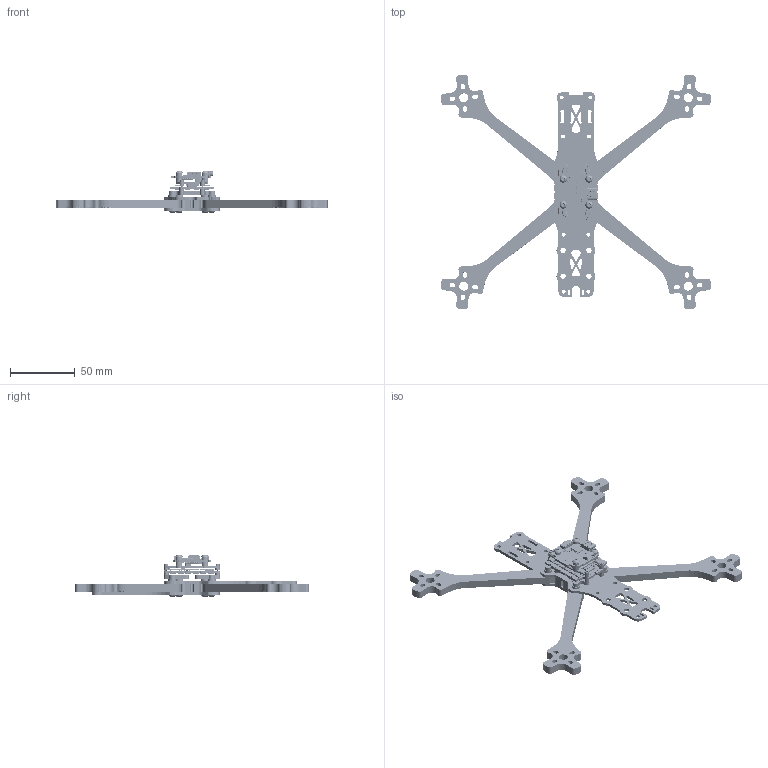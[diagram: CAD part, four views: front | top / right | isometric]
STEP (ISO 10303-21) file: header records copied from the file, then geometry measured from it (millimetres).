
FILE_DESCRIPTION (( 'STEP AP214' ), '1' );
FILE_NAME ('4IN16S_assm_render-20240514.STEP', '2024-05-17T15:09:49', ( '' ), ( '' ), 'SwSTEP 2.0', 'SolidWorks 2023', '' );
FILE_SCHEMA (( 'AUTOMOTIVE_DESIGN' ));
Length unit declared in the file: millimetre
Products named in the file (10): Screw-Button Head Hex_M3x15_92095A119; AL mount_3x30_render-20240514; 4IN16S_assm_render-20240514; Dampener_OD5xM3x5; LMODNR_render-20240513; Screw-Button Head Hex_M3x8_92095A181; 4IN16S_render-20240513; Screw-Socket head_M1.6x8_91292A261; SO1-V5_render-20240513; AL mount_render-20240513
Assembly tree (25 placements, depth 2):
  4IN16S_assm_render-20240514
    4IN16S_render-20240513
    AL mount_render-20240513
    AL mount_3x30_render-20240514
    Dampener_OD5xM3x5  x4
    Screw-Socket head_M1.6x8_91292A261  x4
    Screw-Button Head Hex_M3x8_92095A181  x4
    SO1-V5_render-20240513
    Screw-Button Head Hex_M3x15_92095A119  x8
    LMODNR_render-20240513
Bounding box: 209.05 x 181.19 x 32.3 mm (x, y, z)
Volume: 60853.9 mm3; surface area: 108260.5 mm2
Topology: 217 solids, 217 shells, 18986 faces, 52489 edges, 34205 vertices
Faces by surface type: plane 10879, cylinder 5984, bspline 1497, sphere 348, cone 254, torus 24
Entity records: 794514 total; most frequent: CARTESIAN_POINT 214200, ORIENTED_EDGE 94834, DIRECTION 79229, EDGE_CURVE 47417, LINE 32899, VECTOR 32899, VERTEX_POINT 31117, AXIS2_PLACEMENT_3D 23165
